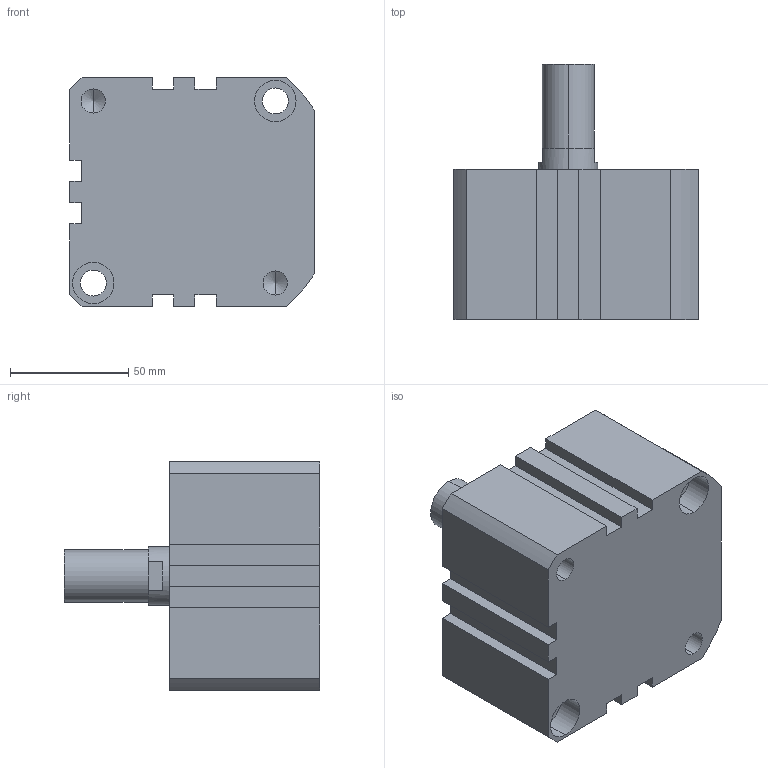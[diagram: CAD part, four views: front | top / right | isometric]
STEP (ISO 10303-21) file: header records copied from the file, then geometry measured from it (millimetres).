
FILE_DESCRIPTION (( 'STEP AP203' ), '1' );
FILE_NAME ('XG#M2-80-10.STEP', '2016-05-24T02:19:53', ( '' ), ( '' ), 'SwSTEP 2.0', 'SolidWorks 2014', '' );
FILE_SCHEMA (( 'CONFIG_CONTROL_DESIGN' ));
Length unit declared in the file: millimetre
Products named in the file (1): XG#M2-80-10
Bounding box: 103.5 x 108 x 97 mm (x, y, z)
Volume: 585646.8 mm3; surface area: 61556.2 mm2
Topology: 1 solids, 1 shells, 111 faces, 275 edges, 175 vertices
Faces by surface type: plane 48, cylinder 47, cone 16
Entity records: 3375 total; most frequent: DIRECTION 608, CARTESIAN_POINT 558, ORIENTED_EDGE 542, EDGE_CURVE 271, AXIS2_PLACEMENT_3D 225, VERTEX_POINT 175, LINE 158, VECTOR 158
